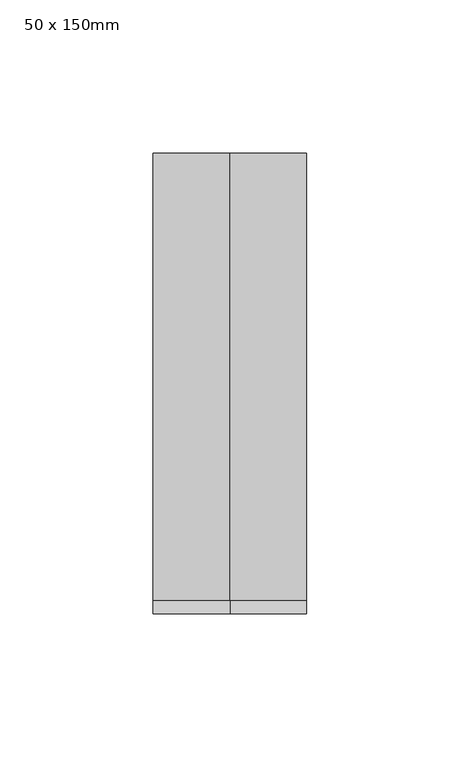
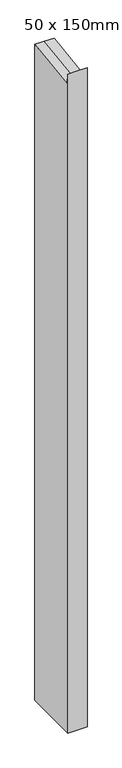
"""IFC4 building model written with IfcOpenShell, lengths in millimetres: member geometry, 矩形竖梃 : 50 x 150mm."""

from ifc_helpers import new_model, si_unit, origin, place, context, project, spatial, faceted_brep, source, transform, mapped, element, save


def member_50_x_150mm_7cecf424(model_context):
    return source(origin(), model_context, "Body", "Brep", [
        faceted_brep([(25.0, 75.0, -1805.0000063), (25.0, -75.0, -1805.0000063), (-25.0, -75.0, -1805.0000063), (-25.0, 75.0, -1805.0000063), (-25.0, 75.0, 10.5744657), (0.0, 75.0, 10.5744657), (25.0, 75.0, 10.5744657), (-25.0, -75.0, 19.6109918), (-25.0, -70.6553215, -10.4658364), (25.0, -75.0, 19.6109918), (0.0, -75.0, 19.6109918), (25.0, -70.6553215, -10.4658364), (0.0, -70.6553215, -10.4658364)], [[[0, 1, 2, 3]], [[4, 5, 6, 0, 3]], [[7, 8, 4, 3, 2]], [[9, 10, 7, 2, 1]], [[6, 11, 9, 1, 0]], [[6, 5, 12, 11]], [[5, 4, 8, 12]], [[8, 7, 10, 12]], [[10, 9, 11, 12]]]),
    ])


if __name__ == "__main__":
    model = new_model("IFC4")
    model_context = context("Model", 3, world=origin())
    ifc_project = project(units=[si_unit("LENGTHUNIT", "METRE", prefix="MILLI")], contexts=[model_context])
    site = spatial("IfcSite", under=ifc_project)
    building = spatial("IfcBuilding", under=site)
    placement = place(None, origin())
    member_50_x_150mm_shape = member_50_x_150mm_7cecf424(model_context)
    element("IfcMember", 1, ObjectType="矩形竖梃 : 50 x 150mm", at=placement, inside=building, context=model_context, shape_type="MappedRepresentation", body=[
        mapped(member_50_x_150mm_shape, transform((0.0, 0.0, 0.0), x_axis=(1.0, 0.0, 0.0), y_axis=(0.0, 1.0, 0.0), z_axis=(0.0, 0.0, 1.0))),
    ])
    save(model, "model.ifc")
